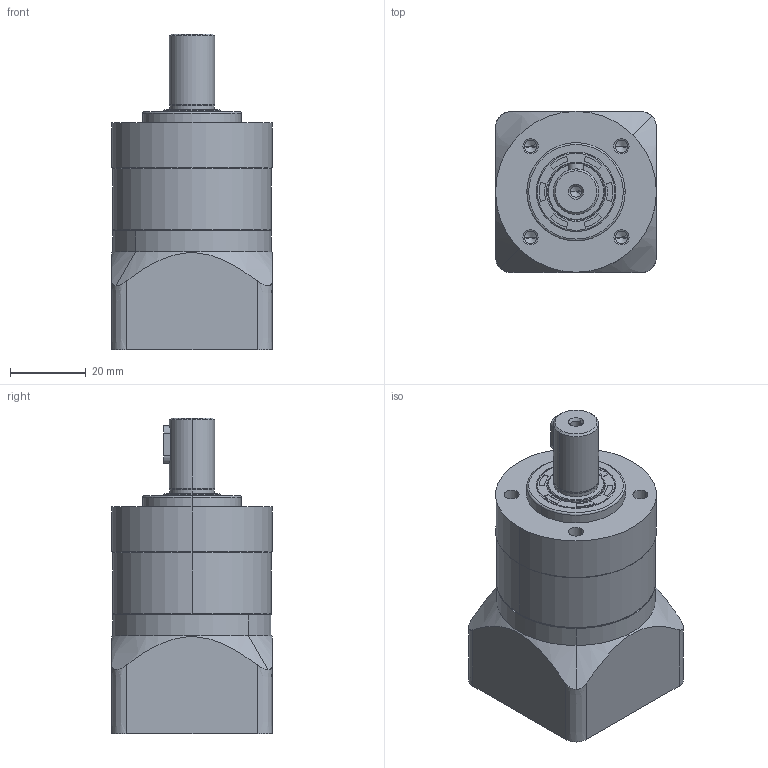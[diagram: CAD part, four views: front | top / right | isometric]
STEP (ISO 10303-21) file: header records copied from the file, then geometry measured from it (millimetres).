
FILE_DESCRIPTION (( 'STEP AP203' ), '1' );
FILE_NAME ('NB42-L1(8-30-46-M4).STEP', '2022-03-12T16:24:05', ( '' ), ( '' ), 'SwSTEP 2.0', 'SolidWorks 2016', '' );
FILE_SCHEMA (( 'CONFIG_CONTROL_DESIGN' ));
Length unit declared in the file: millimetre
Products named in the file (8): SN42; SN42-(12x20-4x10); NB42-L1(8-30-46-M4); SN42-(30-46-M4); SN42-26x14x11-M4; SN42-(8); NB42-(26x3-34-M4); NB42-15x21x3
Assembly tree (7 placements, depth 2):
  NB42-L1(8-30-46-M4)
    NB42-(26x3-34-M4)
    NB42-15x21x3
    SN42-(12x20-4x10)
    SN42
    SN42-(30-46-M4)
    SN42-(8)
    SN42-26x14x11-M4
Bounding box: 42.5 x 42.5 x 83.5 mm (x, y, z)
Volume: 77688.6 mm3; surface area: 32425.1 mm2
Topology: 7 solids, 10 shells, 416 faces, 1008 edges, 618 vertices
Faces by surface type: cylinder 204, plane 92, cone 78, bspline 32, torus 10
Entity records: 25020 total; most frequent: CARTESIAN_POINT 14984, ORIENTED_EDGE 1960, DIRECTION 1863, EDGE_CURVE 982, AXIS2_PLACEMENT_3D 735, VERTEX_POINT 618, EDGE_LOOP 475, FACE_OUTER_BOUND 416
